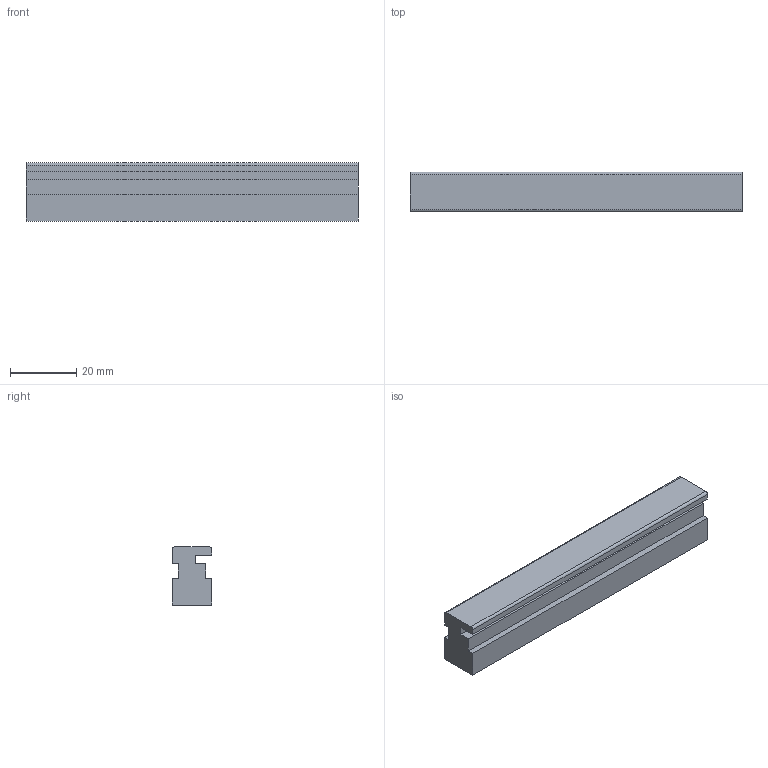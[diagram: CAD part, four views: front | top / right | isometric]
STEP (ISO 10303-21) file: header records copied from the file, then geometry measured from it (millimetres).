
FILE_DESCRIPTION (( 'STEP AP203' ), '1' );
FILE_NAME ('084.708.008.STEP', '2013-01-31T14:26:21', ( 'Alusic' ), ( 'Alusic' ), 'SwSTEP 2.0', 'SolidWorks 2011', '' );
FILE_SCHEMA (( 'CONFIG_CONTROL_DESIGN' ));
Length unit declared in the file: millimetre
Products named in the file (1): 084.708.008
Bounding box: 100 x 12 x 17.5 mm (x, y, z)
Volume: 18060.9 mm3; surface area: 7566.8 mm2
Topology: 1 solids, 1 shells, 18 faces, 48 edges, 32 vertices
Faces by surface type: plane 16, cylinder 2
Entity records: 633 total; most frequent: CARTESIAN_POINT 99, ORIENTED_EDGE 96, DIRECTION 90, EDGE_CURVE 48, VECTOR 44, LINE 44, VERTEX_POINT 32, AXIS2_PLACEMENT_3D 23
